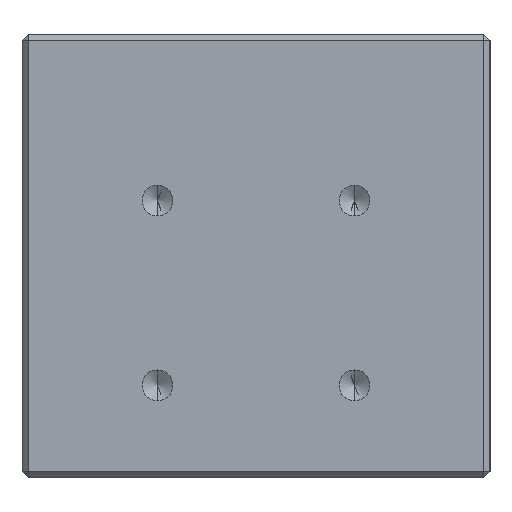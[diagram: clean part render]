
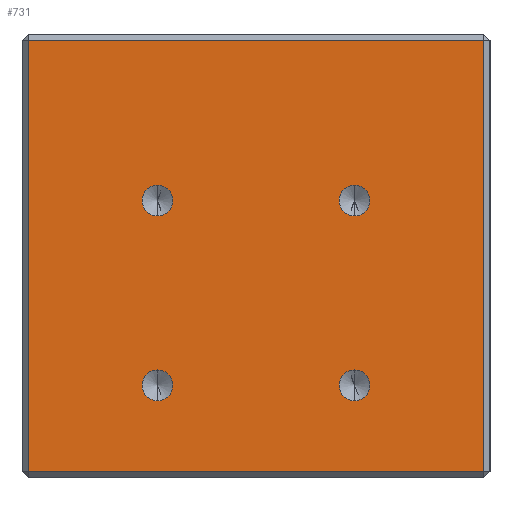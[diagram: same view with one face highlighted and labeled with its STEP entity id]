
A CAD part, left-side view. The second image highlights one B-rep face of the part: STEP entity #731.
In plain terms, the highlighted planar face has unit normal (-1, 0, 0).
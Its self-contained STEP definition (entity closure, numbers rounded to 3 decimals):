
#1 = VERTEX_POINT ( 'NONE', #2420 ) ;
#70 = AXIS2_PLACEMENT_3D ( 'NONE', #1295, #985, #668 ) ;
#74 = EDGE_CURVE ( 'NONE', #289, #1003, #865, .T. ) ;
#196 = FACE_BOUND ( 'NONE', #1047, .T. ) ;
#205 = AXIS2_PLACEMENT_3D ( 'NONE', #1634, #1002, #691 ) ;
#276 = DIRECTION ( 'NONE',  ( -1., 0., 0. ) ) ;
#289 = VERTEX_POINT ( 'NONE', #2625 ) ;
#369 = ORIENTED_EDGE ( 'NONE', *, *, #492, .T. ) ;
#396 = DIRECTION ( 'NONE',  ( 0., 0., 1. ) ) ;
#416 = CIRCLE ( 'NONE', #1507, 1.25 ) ;
#431 = DIRECTION ( 'NONE',  ( 0., 0., 1. ) ) ;
#433 = CIRCLE ( 'NONE', #2111, 1.25 ) ;
#452 = ORIENTED_EDGE ( 'NONE', *, *, #2034, .F. ) ;
#492 = EDGE_CURVE ( 'NONE', #1, #1393, #1299, .T. ) ;
#497 = VERTEX_POINT ( 'NONE', #1329 ) ;
#515 = EDGE_CURVE ( 'NONE', #1393, #2247, #1309, .T. ) ;
#555 = ORIENTED_EDGE ( 'NONE', *, *, #1730, .F. ) ;
#562 = VERTEX_POINT ( 'NONE', #2957 ) ;
#595 = CARTESIAN_POINT ( 'NONE',  ( -28., -8., 7.5 ) ) ;
#614 = ORIENTED_EDGE ( 'NONE', *, *, #2551, .F. ) ;
#645 = DIRECTION ( 'NONE',  ( 0., -1., 0. ) ) ;
#646 = AXIS2_PLACEMENT_3D ( 'NONE', #2013, #1685, #1370 ) ;
#668 = DIRECTION ( 'NONE',  ( 0., 0., 1. ) ) ;
#678 = CIRCLE ( 'NONE', #205, 1.25 ) ;
#691 = DIRECTION ( 'NONE',  ( 0., 0., 1. ) ) ;
#717 = DIRECTION ( 'NONE',  ( -1., 0., 0. ) ) ;
#731 = ADVANCED_FACE ( 'NONE', ( #2346, #1242, #1983, #196, #1450 ), #1051, .F. ) ;
#787 = ORIENTED_EDGE ( 'NONE', *, *, #3044, .T. ) ;
#853 = AXIS2_PLACEMENT_3D ( 'NONE', #2910, #2595, #2266 ) ;
#865 = CIRCLE ( 'NONE', #70, 1.25 ) ;
#897 = ORIENTED_EDGE ( 'NONE', *, *, #1676, .F. ) ;
#959 = EDGE_LOOP ( 'NONE', ( #452, #555 ) ) ;
#965 = CARTESIAN_POINT ( 'NONE',  ( -28., 19., 0.5 ) ) ;
#983 = VECTOR ( 'NONE', #2223, 1000. ) ;
#985 = DIRECTION ( 'NONE',  ( -1., 0., 0. ) ) ;
#1002 = DIRECTION ( 'NONE',  ( -1., 0., 0. ) ) ;
#1003 = VERTEX_POINT ( 'NONE', #1066 ) ;
#1031 = CARTESIAN_POINT ( 'NONE',  ( -28., -8., 22.5 ) ) ;
#1047 = EDGE_LOOP ( 'NONE', ( #897, #2087 ) ) ;
#1051 = PLANE ( 'NONE',  #853 ) ;
#1066 = CARTESIAN_POINT ( 'NONE',  ( -28., 8., 8.75 ) ) ;
#1077 = EDGE_CURVE ( 'NONE', #562, #2861, #2081, .T. ) ;
#1151 = EDGE_LOOP ( 'NONE', ( #787, #2142, #369, #2229 ) ) ;
#1173 = DIRECTION ( 'NONE',  ( 0., 0., 1. ) ) ;
#1178 = EDGE_LOOP ( 'NONE', ( #2311, #614 ) ) ;
#1224 = VECTOR ( 'NONE', #2856, 1000. ) ;
#1242 = FACE_BOUND ( 'NONE', #1178, .T. ) ;
#1255 = ORIENTED_EDGE ( 'NONE', *, *, #2956, .F. ) ;
#1271 = LINE ( 'NONE', #965, #2917 ) ;
#1277 = EDGE_CURVE ( 'NONE', #2479, #1, #1271, .T. ) ;
#1295 = CARTESIAN_POINT ( 'NONE',  ( -28., 8., 7.5 ) ) ;
#1299 = LINE ( 'NONE', #2920, #2637 ) ;
#1307 = CARTESIAN_POINT ( 'NONE',  ( -28., -8., 21.25 ) ) ;
#1309 = LINE ( 'NONE', #2824, #1224 ) ;
#1329 = CARTESIAN_POINT ( 'NONE',  ( -28., -8., 23.75 ) ) ;
#1370 = DIRECTION ( 'NONE',  ( 0., 0., 1. ) ) ;
#1393 = VERTEX_POINT ( 'NONE', #1700 ) ;
#1405 = ORIENTED_EDGE ( 'NONE', *, *, #1077, .F. ) ;
#1426 = CARTESIAN_POINT ( 'NONE',  ( -28., 8., 23.75 ) ) ;
#1450 = FACE_OUTER_BOUND ( 'NONE', #1151, .T. ) ;
#1493 = DIRECTION ( 'NONE',  ( -1., 0., 0. ) ) ;
#1507 = AXIS2_PLACEMENT_3D ( 'NONE', #2468, #1493, #1173 ) ;
#1508 = DIRECTION ( 'NONE',  ( 0., 0., 1. ) ) ;
#1634 = CARTESIAN_POINT ( 'NONE',  ( -28., -8., 7.5 ) ) ;
#1674 = VERTEX_POINT ( 'NONE', #1808 ) ;
#1676 = EDGE_CURVE ( 'NONE', #1003, #289, #416, .T. ) ;
#1685 = DIRECTION ( 'NONE',  ( -1., 0., 0. ) ) ;
#1700 = CARTESIAN_POINT ( 'NONE',  ( -28., -18.5, 35.5 ) ) ;
#1730 = EDGE_CURVE ( 'NONE', #2686, #497, #2344, .T. ) ;
#1754 = EDGE_LOOP ( 'NONE', ( #1255, #1405 ) ) ;
#1808 = CARTESIAN_POINT ( 'NONE',  ( -28., -8., 8.75 ) ) ;
#1825 = DIRECTION ( 'NONE',  ( -1., 0., 0. ) ) ;
#1873 = CARTESIAN_POINT ( 'NONE',  ( -28., -8., 6.25 ) ) ;
#1983 = FACE_BOUND ( 'NONE', #1754, .T. ) ;
#2013 = CARTESIAN_POINT ( 'NONE',  ( -28., 8., 22.5 ) ) ;
#2034 = EDGE_CURVE ( 'NONE', #497, #2686, #3090, .T. ) ;
#2081 = CIRCLE ( 'NONE', #2249, 1.25 ) ;
#2087 = ORIENTED_EDGE ( 'NONE', *, *, #74, .F. ) ;
#2111 = AXIS2_PLACEMENT_3D ( 'NONE', #595, #276, #3098 ) ;
#2134 = CIRCLE ( 'NONE', #646, 1.25 ) ;
#2142 = ORIENTED_EDGE ( 'NONE', *, *, #1277, .T. ) ;
#2168 = CARTESIAN_POINT ( 'NONE',  ( -28., -8., 22.5 ) ) ;
#2223 = DIRECTION ( 'NONE',  ( 0., 0., -1. ) ) ;
#2229 = ORIENTED_EDGE ( 'NONE', *, *, #515, .T. ) ;
#2247 = VERTEX_POINT ( 'NONE', #2935 ) ;
#2249 = AXIS2_PLACEMENT_3D ( 'NONE', #3031, #2694, #2377 ) ;
#2266 = DIRECTION ( 'NONE',  ( 0., 1., 0. ) ) ;
#2311 = ORIENTED_EDGE ( 'NONE', *, *, #2497, .F. ) ;
#2344 = CIRCLE ( 'NONE', #2732, 1.25 ) ;
#2346 = FACE_BOUND ( 'NONE', #959, .T. ) ;
#2377 = DIRECTION ( 'NONE',  ( 0., 0., 1. ) ) ;
#2420 = CARTESIAN_POINT ( 'NONE',  ( -28., -18.5, 0.5 ) ) ;
#2454 = AXIS2_PLACEMENT_3D ( 'NONE', #2168, #1825, #1508 ) ;
#2468 = CARTESIAN_POINT ( 'NONE',  ( -28., 8., 7.5 ) ) ;
#2479 = VERTEX_POINT ( 'NONE', #2516 ) ;
#2497 = EDGE_CURVE ( 'NONE', #1674, #2706, #433, .T. ) ;
#2516 = CARTESIAN_POINT ( 'NONE',  ( -28., 18.5, 0.5 ) ) ;
#2551 = EDGE_CURVE ( 'NONE', #2706, #1674, #678, .T. ) ;
#2552 = CARTESIAN_POINT ( 'NONE',  ( -28., 18.5, 36. ) ) ;
#2595 = DIRECTION ( 'NONE',  ( 1., 0., 0. ) ) ;
#2625 = CARTESIAN_POINT ( 'NONE',  ( -28., 8., 6.25 ) ) ;
#2637 = VECTOR ( 'NONE', #431, 1000. ) ;
#2686 = VERTEX_POINT ( 'NONE', #1307 ) ;
#2694 = DIRECTION ( 'NONE',  ( -1., 0., 0. ) ) ;
#2706 = VERTEX_POINT ( 'NONE', #1873 ) ;
#2732 = AXIS2_PLACEMENT_3D ( 'NONE', #1031, #717, #396 ) ;
#2824 = CARTESIAN_POINT ( 'NONE',  ( -28., 19., 35.5 ) ) ;
#2856 = DIRECTION ( 'NONE',  ( 0., 1., 0. ) ) ;
#2861 = VERTEX_POINT ( 'NONE', #1426 ) ;
#2870 = LINE ( 'NONE', #2552, #983 ) ;
#2910 = CARTESIAN_POINT ( 'NONE',  ( -28., 19., 36. ) ) ;
#2917 = VECTOR ( 'NONE', #645, 1000. ) ;
#2920 = CARTESIAN_POINT ( 'NONE',  ( -28., -18.5, 36. ) ) ;
#2935 = CARTESIAN_POINT ( 'NONE',  ( -28., 18.5, 35.5 ) ) ;
#2956 = EDGE_CURVE ( 'NONE', #2861, #562, #2134, .T. ) ;
#2957 = CARTESIAN_POINT ( 'NONE',  ( -28., 8., 21.25 ) ) ;
#3031 = CARTESIAN_POINT ( 'NONE',  ( -28., 8., 22.5 ) ) ;
#3044 = EDGE_CURVE ( 'NONE', #2247, #2479, #2870, .T. ) ;
#3090 = CIRCLE ( 'NONE', #2454, 1.25 ) ;
#3098 = DIRECTION ( 'NONE',  ( 0., 0., 1. ) ) ;
